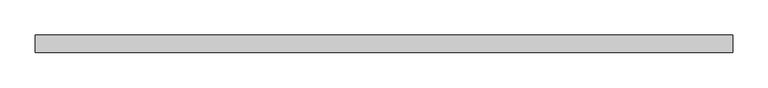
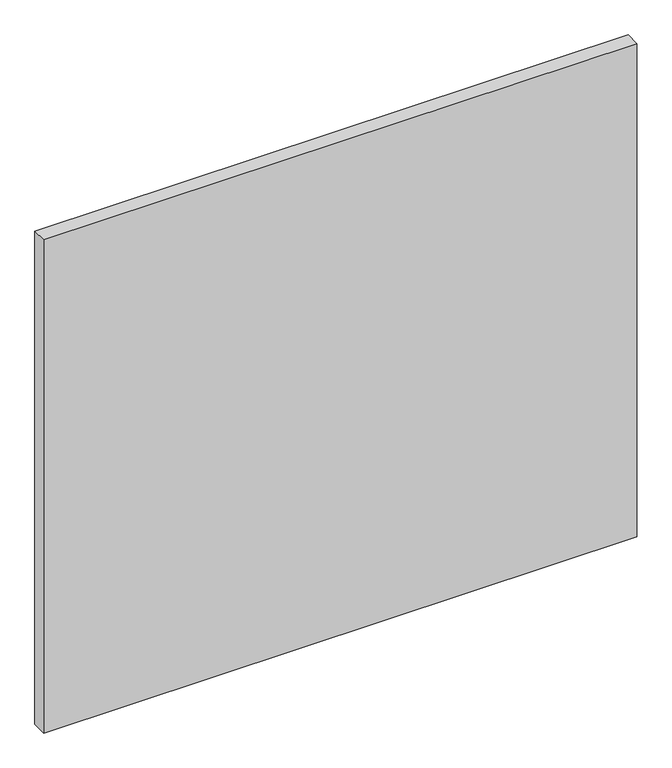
"""IFC4 building model written with IfcOpenShell, lengths in millimetres: plate geometry, 系统嵌板 : 玻璃."""

import ifcopenshell
import ifcopenshell.guid

model = None  # the IFC model being written
_history = None  # IfcOwnerHistory: only IFC2X3 demands one
_inside = {}  # id of a spatial element -> (the spatial element, [elements in it])
_under = {}  # id of a project, library or spatial element -> (it, [spatial elements below it])
_declared = {}  # id of a project -> (the project, [libraries it declares])
_typed = {}  # id of a type object -> (the type object, [elements of that type])
_made_of = {}  # id of a material, layer set ... -> (it, [elements and type objects made of it])


def new_model(schema):
    """Start an empty IFC model of exactly this schema.

    Asked for "IFC4X3", IfcOpenShell would pick the latest addendum, in which some entities
    have other attributes; the version numbers below select the first issue.
    IFC2X3 requires an IfcOwnerHistory on every rooted entity: one is made here for all.
    """
    global model, _history
    if schema == "IFC4X3":
        model = ifcopenshell.file(schema_version=(4, 3, 0, 0))
    else:
        model = ifcopenshell.file(schema=schema)
    _inside.clear()
    _under.clear()
    _declared.clear()
    _typed.clear()
    _made_of.clear()
    _history = None
    if model.schema == "IFC2X3":
        org = make("IfcOrganization", Name="unknown")
        user = make(
            "IfcPersonAndOrganization",
            ThePerson=make("IfcPerson", FamilyName="unknown"),
            TheOrganization=org,
        )
        app = make(
            "IfcApplication",
            ApplicationDeveloper=org,
            Version="unknown",
            ApplicationFullName="unknown",
            ApplicationIdentifier="unknown",
        )
        _history = make(
            "IfcOwnerHistory",
            OwningUser=user,
            OwningApplication=app,
            ChangeAction="ADDED",
            CreationDate=0,
        )
    return model


def make(cls, **values):
    """One entity of the class cls with the attributes given. An attribute that is None is left unset."""
    return model.create_entity(
        cls, **{name: value for name, value in values.items() if value is not None}
    )


def rooted(cls, **values):
    """An entity with a GlobalId (a new one), such as an element, a storey or a relation."""
    return make(cls, GlobalId=ifcopenshell.guid.new(), OwnerHistory=_history, **values)


def si_unit(unit_type, name, prefix=None):
    """IfcSIUnit, for example si_unit("LENGTHUNIT", "METRE", prefix="MILLI")."""
    return make("IfcSIUnit", UnitType=unit_type, Prefix=prefix, Name=name)


def assignment(units):
    """IfcUnitAssignment: the units of a project."""
    return None if units is None else make("IfcUnitAssignment", Units=units)


def point(xyz):
    """IfcCartesianPoint."""
    return None if xyz is None else make("IfcCartesianPoint", Coordinates=xyz)


def direction(xyz):
    """IfcDirection."""
    return None if xyz is None else make("IfcDirection", DirectionRatios=xyz)


def frame(location, z_axis=None, x_axis=None):
    """IfcAxis2Placement3D, a coordinate frame: its origin and axes. An axis left out is left unset."""
    return make(
        "IfcAxis2Placement3D",
        Location=point(location),
        Axis=direction(z_axis),
        RefDirection=direction(x_axis),
    )


def origin():
    """The frame at (0, 0, 0) with its axes left unset."""
    return frame((0.0, 0.0, 0.0))


def origin_with_axes():
    """The frame at (0, 0, 0) with the z axis (0, 0, 1) and the x axis (1, 0, 0) written out."""
    return frame((0.0, 0.0, 0.0), z_axis=(0.0, 0.0, 1.0), x_axis=(1.0, 0.0, 0.0))


def place(relative_to, where):
    """IfcLocalPlacement: puts the frame where relative to a parent placement (None: the world)."""
    return make(
        "IfcLocalPlacement", PlacementRelTo=relative_to, RelativePlacement=where
    )


def context(
    kind, dimensions, precision=None, world=None, true_north=None, identifier=None
):
    """IfcGeometricRepresentationContext, for example the 3D "Model" context."""
    return make(
        "IfcGeometricRepresentationContext",
        ContextIdentifier=identifier,
        ContextType=kind,
        CoordinateSpaceDimension=dimensions,
        Precision=precision,
        WorldCoordinateSystem=world,
        TrueNorth=true_north,
    )


def project(units=None, contexts=None):
    """IfcProject with its units and contexts."""
    return rooted(
        "IfcProject",
        Name="project",
        RepresentationContexts=contexts,
        UnitsInContext=assignment(units),
    )


def spatial(cls, under=None, at=None, **own):
    """A site, building, storey or space (cls), placed at a placement, below another one or the project."""
    s = rooted(cls, ObjectPlacement=at, **own)
    if under is not None:
        _under.setdefault(under.id(), (under, []))[1].append(s)
    return s


def polyline(points):
    """IfcPolyline through the points."""
    return make("IfcPolyline", Points=[point(p) for p in points])


def outline(outer, holes=None, kind="AREA"):
    """IfcArbitraryClosedProfileDef: a profile drawn as a closed curve; with holes, ...WithVoids."""
    if holes is None:
        return make("IfcArbitraryClosedProfileDef", ProfileType=kind, OuterCurve=outer)
    return make(
        "IfcArbitraryProfileDefWithVoids",
        ProfileType=kind,
        OuterCurve=outer,
        InnerCurves=holes,
    )


def extrude(swept, where, along, depth):
    """IfcExtrudedAreaSolid: the profile swept, set in the frame where, extruded along a direction by depth."""
    return make(
        "IfcExtrudedAreaSolid",
        SweptArea=swept,
        Position=where,
        ExtrudedDirection=direction(along),
        Depth=depth,
    )


def shape(context_of_items, identifier, shape_type, items):
    """IfcShapeRepresentation: the items that make up one representation, for example the "Body"."""
    return make(
        "IfcShapeRepresentation",
        ContextOfItems=context_of_items,
        RepresentationIdentifier=identifier,
        RepresentationType=shape_type,
        Items=items,
    )


def source(mapping_origin, context_of_items, identifier, shape_type, items):
    """IfcRepresentationMap: a shape defined once, which mapped items show again and again."""
    return make(
        "IfcRepresentationMap",
        MappingOrigin=mapping_origin,
        MappedRepresentation=shape(context_of_items, identifier, shape_type, items),
    )


def transform(
    local_origin,
    x_axis=None,
    y_axis=None,
    z_axis=None,
    scale=None,
    scale2=None,
    scale3=None,
    uniform=True,
):
    """IfcCartesianTransformationOperator3D, or its non-uniform kind. x_axis, y_axis, z_axis: its Axis1, 2, 3."""
    if uniform:
        return make(
            "IfcCartesianTransformationOperator3D",
            Axis1=direction(x_axis),
            Axis2=direction(y_axis),
            LocalOrigin=point(local_origin),
            Scale=scale,
            Axis3=direction(z_axis),
        )
    return make(
        "IfcCartesianTransformationOperator3DnonUniform",
        Axis1=direction(x_axis),
        Axis2=direction(y_axis),
        LocalOrigin=point(local_origin),
        Scale=scale,
        Axis3=direction(z_axis),
        Scale2=scale2,
        Scale3=scale3,
    )


def mapped(mapping_source, mapping_target):
    """IfcMappedItem: shows the shape of a source again, moved by a transform."""
    return make(
        "IfcMappedItem", MappingSource=mapping_source, MappingTarget=mapping_target
    )


def made_of(thing, what):
    """Note that an element or type object is made of a material, layer set ...; save() writes the relation."""
    if what is not None:
        _made_of.setdefault(what.id(), (what, []))[1].append(thing)
    return thing


def element(
    cls,
    number,
    at=None,
    inside=None,
    cuts=None,
    type_object=None,
    material=None,
    context=None,
    identifier="Body",
    shape_type=None,
    held_by="IfcProductDefinitionShape",
    body=None,
    shapes=None,
    **own,
):
    """One element of the class cls, such as IfcWall. Its Tag is "e" and its number.

    at: its placement. inside: the storey or other place that contains it. cuts: it is an
    opening in that element (IfcRelVoidsElement). A single representation is given by context,
    identifier, shape_type and body (its items); several are given by shapes. held_by: the class
    of the entity that holds the representations. save() writes the other relations.
    """
    e = rooted(cls, Tag="e%d" % number, ObjectPlacement=at, **own)
    if body is not None:
        shapes = [shape(context, identifier, shape_type, body)]
    if shapes is not None:
        e.Representation = make(held_by, Representations=shapes)
    if inside is not None:
        _inside.setdefault(inside.id(), (inside, []))[1].append(e)
    if cuts is not None:
        rooted(
            "IfcRelVoidsElement", RelatingBuildingElement=cuts, RelatedOpeningElement=e
        )
    if type_object is not None:
        _typed.setdefault(type_object.id(), (type_object, []))[1].append(e)
    return made_of(e, material)


def aggregate(whole, parts):
    """IfcRelAggregates: a whole, such as a stair, and the parts it consists of."""
    return rooted("IfcRelAggregates", RelatingObject=whole, RelatedObjects=parts)


def save(model, path):
    """Write the relations noted so far, then the file.

    IfcRelAggregates (storeys below a building ...), IfcRelContainedInSpatialStructure (elements
    in a storey), IfcRelDefinesByType, IfcRelAssociatesMaterial and IfcRelDeclares: one each for
    every whole, place, type object, material and project.
    """
    for whole, parts in _under.values():
        aggregate(whole, parts)
    for where, things in _inside.values():
        rooted(
            "IfcRelContainedInSpatialStructure",
            RelatedElements=things,
            RelatingStructure=where,
        )
    for kind, things in _typed.values():
        rooted("IfcRelDefinesByType", RelatedObjects=things, RelatingType=kind)
    for what, things in _made_of.values():
        rooted("IfcRelAssociatesMaterial", RelatedObjects=things, RelatingMaterial=what)
    for by, libraries in _declared.values():
        rooted("IfcRelDeclares", RelatingContext=by, RelatedDefinitions=libraries)
    model.write(path)


def plate_8182eb90(model_context):
    return source(origin(), model_context, "Body", "SweptSolid", [
        extrude(outline(polyline([(495.0, -12.5), (-495.0, -12.5), (-495.0, 12.5), (495.0, 12.5), (495.0, -12.5)])), origin_with_axes(), (0.0, 0.0, 1.0), 870.0),
    ])


if __name__ == "__main__":
    model = new_model("IFC4")
    model_context = context("Model", 3, world=origin())
    ifc_project = project(units=[si_unit("LENGTHUNIT", "METRE", prefix="MILLI")], contexts=[model_context])
    site = spatial("IfcSite", under=ifc_project)
    building = spatial("IfcBuilding", under=site)
    placement = place(None, origin())
    plate_shape = plate_8182eb90(model_context)
    element("IfcPlate", 1, ObjectType="系统嵌板 : 玻璃", at=placement, inside=building, context=model_context, shape_type="MappedRepresentation", body=[
        mapped(plate_shape, transform((0.0, 0.0, 0.0), x_axis=(1.0, 0.0, 0.0), y_axis=(0.0, 1.0, 0.0), z_axis=(0.0, 0.0, 1.0))),
    ])
    save(model, "model.ifc")
